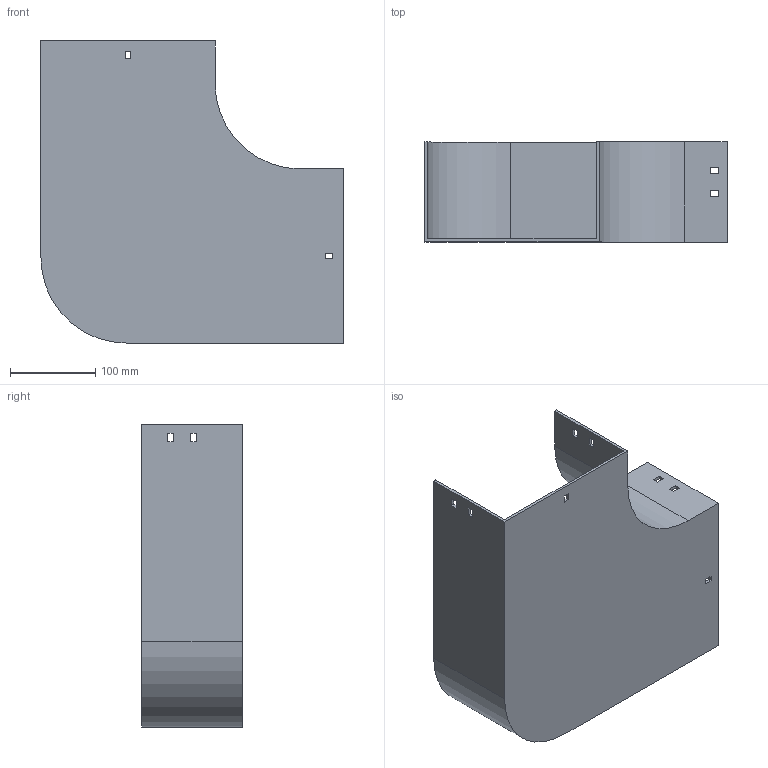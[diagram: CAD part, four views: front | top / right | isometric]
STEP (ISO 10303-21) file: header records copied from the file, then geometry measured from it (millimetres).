
FILE_DESCRIPTION (( 'STEP AP214' ), '1' );
FILE_NAME ('10B1J200.step', '2025-02-21T09:40:01', ( '' ), ( '' ), 'SwSTEP 2.0', 'SolidWorks 2023', '' );
FILE_SCHEMA (( 'AUTOMOTIVE_DESIGN' ));
Length unit declared in the file: millimetre
Products named in the file (1): 10B1J200
Bounding box: 354 x 117.5 x 354 mm (x, y, z)
Volume: 725428 mm3; surface area: 421950.9 mm2
Topology: 1 solids, 1 shells, 58 faces, 168 edges, 112 vertices
Faces by surface type: plane 54, cylinder 4
Entity records: 1943 total; most frequent: CARTESIAN_POINT 339, ORIENTED_EDGE 336, DIRECTION 294, EDGE_CURVE 168, LINE 160, VECTOR 160, VERTEX_POINT 112, EDGE_LOOP 78
